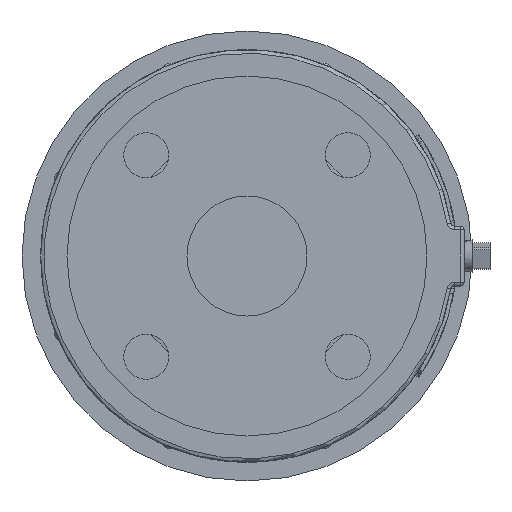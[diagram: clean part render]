
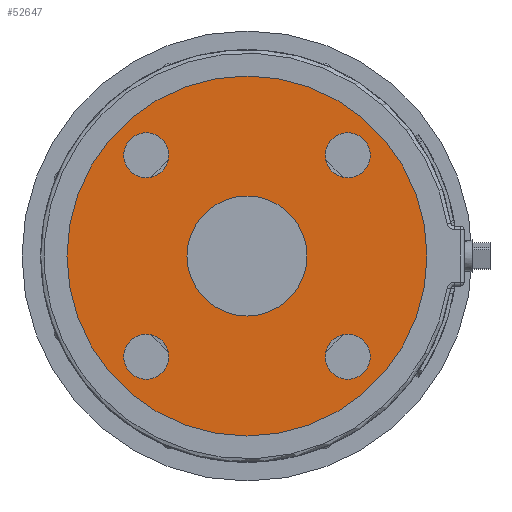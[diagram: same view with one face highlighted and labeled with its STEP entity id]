
A CAD part, front view. The second image highlights one B-rep face of the part: STEP entity #52647.
In plain terms, the highlighted planar face has unit normal (0, -1, 0).
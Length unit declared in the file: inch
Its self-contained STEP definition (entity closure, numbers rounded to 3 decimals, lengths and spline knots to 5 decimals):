
#723 = EDGE_CURVE ( 'NONE', #89953, #5690, #50990, .T. ) ;
#1263 = EDGE_LOOP ( 'NONE', ( #93401, #64311 ) ) ;
#1480 = ORIENTED_EDGE ( 'NONE', *, *, #723, .T. ) ;
#1604 = EDGE_CURVE ( 'NONE', #45033, #6847, #94054, .T. ) ;
#1911 = CARTESIAN_POINT ( 'NONE',  ( 0., -11.44, 0. ) ) ;
#2008 = VERTEX_POINT ( 'NONE', #67988 ) ;
#2479 = EDGE_CURVE ( 'NONE', #97601, #65758, #71176, .T. ) ;
#2820 = AXIS2_PLACEMENT_3D ( 'NONE', #61092, #15231, #68786 ) ;
#5185 = EDGE_CURVE ( 'NONE', #35429, #52187, #64907, .T. ) ;
#5690 = VERTEX_POINT ( 'NONE', #34544 ) ;
#6618 = AXIS2_PLACEMENT_3D ( 'NONE', #99253, #53353, #7550 ) ;
#6627 = DIRECTION ( 'NONE',  ( 0., 0., 1. ) ) ;
#6847 = VERTEX_POINT ( 'NONE', #66919 ) ;
#7532 = DIRECTION ( 'NONE',  ( 0., 1., 0. ) ) ;
#7550 = DIRECTION ( 'NONE',  ( 0., 0., 1. ) ) ;
#7918 = EDGE_LOOP ( 'NONE', ( #43115, #23775 ) ) ;
#8657 = ORIENTED_EDGE ( 'NONE', *, *, #17624, .T. ) ;
#8718 = CARTESIAN_POINT ( 'NONE',  ( -1.67938, -11.44, 2.05438 ) ) ;
#9398 = DIRECTION ( 'NONE',  ( 0., 1., 0. ) ) ;
#9588 = DIRECTION ( 'NONE',  ( 0., 0., -1. ) ) ;
#10799 = FACE_BOUND ( 'NONE', #1263, .T. ) ;
#11014 = AXIS2_PLACEMENT_3D ( 'NONE', #12886, #66424, #20595 ) ;
#12886 = CARTESIAN_POINT ( 'NONE',  ( -1.67938, -11.44, -1.67938 ) ) ;
#14224 = CARTESIAN_POINT ( 'NONE',  ( 1.67938, -11.44, -1.30438 ) ) ;
#14988 = DIRECTION ( 'NONE',  ( 0., -1., 0. ) ) ;
#15026 = EDGE_CURVE ( 'NONE', #37452, #2008, #25461, .T. ) ;
#15231 = DIRECTION ( 'NONE',  ( 0., 1., 0. ) ) ;
#17624 = EDGE_CURVE ( 'NONE', #6847, #45033, #45529, .T. ) ;
#17812 = CARTESIAN_POINT ( 'NONE',  ( 0., -11.44, 0. ) ) ;
#20595 = DIRECTION ( 'NONE',  ( 0., 0., 1. ) ) ;
#20858 = ORIENTED_EDGE ( 'NONE', *, *, #2479, .F. ) ;
#21464 = CARTESIAN_POINT ( 'NONE',  ( 1.67938, -11.44, 2.05438 ) ) ;
#23383 = AXIS2_PLACEMENT_3D ( 'NONE', #78333, #32498, #86001 ) ;
#23775 = ORIENTED_EDGE ( 'NONE', *, *, #56109, .T. ) ;
#25010 = CIRCLE ( 'NONE', #88787, 0.375 ) ;
#25461 = CIRCLE ( 'NONE', #11014, 0.375 ) ;
#25493 = DIRECTION ( 'NONE',  ( 0., 0., -1. ) ) ;
#25897 = ORIENTED_EDGE ( 'NONE', *, *, #63485, .T. ) ;
#28963 = DIRECTION ( 'NONE',  ( 0., 1., 0. ) ) ;
#30079 = CARTESIAN_POINT ( 'NONE',  ( 0., -11.44, 0. ) ) ;
#32135 = CIRCLE ( 'NONE', #23383, 0.375 ) ;
#32498 = DIRECTION ( 'NONE',  ( 0., 1., 0. ) ) ;
#34164 = CARTESIAN_POINT ( 'NONE',  ( 1.67938, -11.44, -1.67938 ) ) ;
#34428 = EDGE_LOOP ( 'NONE', ( #42294, #81328 ) ) ;
#34544 = CARTESIAN_POINT ( 'NONE',  ( 1.67938, -11.44, -2.05438 ) ) ;
#35429 = VERTEX_POINT ( 'NONE', #72295 ) ;
#37345 = AXIS2_PLACEMENT_3D ( 'NONE', #84320, #38464, #92008 ) ;
#37452 = VERTEX_POINT ( 'NONE', #82972 ) ;
#37971 = CIRCLE ( 'NONE', #50394, 1. ) ;
#38464 = DIRECTION ( 'NONE',  ( 0., 1., 0. ) ) ;
#38889 = EDGE_LOOP ( 'NONE', ( #62205, #20858 ) ) ;
#40253 = AXIS2_PLACEMENT_3D ( 'NONE', #74824, #28963, #82517 ) ;
#41835 = DIRECTION ( 'NONE',  ( 0., 0., 1. ) ) ;
#42294 = ORIENTED_EDGE ( 'NONE', *, *, #54840, .T. ) ;
#43115 = ORIENTED_EDGE ( 'NONE', *, *, #5185, .T. ) ;
#43648 = CIRCLE ( 'NONE', #40253, 0.375 ) ;
#43914 = CARTESIAN_POINT ( 'NONE',  ( 0., -11.44, 3. ) ) ;
#43987 = AXIS2_PLACEMENT_3D ( 'NONE', #1911, #55419, #9588 ) ;
#45033 = VERTEX_POINT ( 'NONE', #21464 ) ;
#45529 = CIRCLE ( 'NONE', #6618, 0.375 ) ;
#47450 = AXIS2_PLACEMENT_3D ( 'NONE', #34164, #87675, #41835 ) ;
#48198 = VERTEX_POINT ( 'NONE', #8718 ) ;
#49125 = FACE_BOUND ( 'NONE', #7918, .T. ) ;
#50394 = AXIS2_PLACEMENT_3D ( 'NONE', #17812, #71368, #25493 ) ;
#50990 = CIRCLE ( 'NONE', #37345, 0.375 ) ;
#51502 = FACE_BOUND ( 'NONE', #34428, .T. ) ;
#52187 = VERTEX_POINT ( 'NONE', #61304 ) ;
#52440 = DIRECTION ( 'NONE',  ( 0., 1., 0. ) ) ;
#52647 = ADVANCED_FACE ( 'NONE', ( #51502, #10799, #92228, #89786, #69461, #49125 ), #60852, .T. ) ;
#53338 = CARTESIAN_POINT ( 'NONE',  ( 0., -11.44, 0. ) ) ;
#53353 = DIRECTION ( 'NONE',  ( 0., 1., 0. ) ) ;
#54047 = EDGE_LOOP ( 'NONE', ( #8657, #89267 ) ) ;
#54057 = EDGE_CURVE ( 'NONE', #48198, #95596, #25010, .T. ) ;
#54840 = EDGE_CURVE ( 'NONE', #95596, #48198, #32135, .T. ) ;
#55214 = CARTESIAN_POINT ( 'NONE',  ( 0., -11.44, 0. ) ) ;
#55419 = DIRECTION ( 'NONE',  ( 0., 1., 0. ) ) ;
#56109 = EDGE_CURVE ( 'NONE', #52187, #35429, #37971, .T. ) ;
#58382 = EDGE_CURVE ( 'NONE', #65758, #97601, #89249, .T. ) ;
#58900 = CIRCLE ( 'NONE', #47450, 0.375 ) ;
#60057 = EDGE_CURVE ( 'NONE', #2008, #37452, #43648, .T. ) ;
#60852 = PLANE ( 'NONE',  #67056 ) ;
#61033 = DIRECTION ( 'NONE',  ( 0., 0., 1. ) ) ;
#61092 = CARTESIAN_POINT ( 'NONE',  ( 1.67938, -11.44, 1.67938 ) ) ;
#61304 = CARTESIAN_POINT ( 'NONE',  ( 0., -11.44, -1. ) ) ;
#62205 = ORIENTED_EDGE ( 'NONE', *, *, #58382, .F. ) ;
#62911 = DIRECTION ( 'NONE',  ( 0., 0., 1. ) ) ;
#63485 = EDGE_CURVE ( 'NONE', #5690, #89953, #58900, .T. ) ;
#64311 = ORIENTED_EDGE ( 'NONE', *, *, #60057, .T. ) ;
#64526 = CARTESIAN_POINT ( 'NONE',  ( 0., -11.44, -3. ) ) ;
#64907 = CIRCLE ( 'NONE', #43987, 1. ) ;
#65758 = VERTEX_POINT ( 'NONE', #43914 ) ;
#66424 = DIRECTION ( 'NONE',  ( 0., 1., 0. ) ) ;
#66919 = CARTESIAN_POINT ( 'NONE',  ( 1.67938, -11.44, 1.30438 ) ) ;
#67056 = AXIS2_PLACEMENT_3D ( 'NONE', #30079, #14988, #68534 ) ;
#67988 = CARTESIAN_POINT ( 'NONE',  ( -1.67938, -11.44, -1.30438 ) ) ;
#68534 = DIRECTION ( 'NONE',  ( 0., 0., -1. ) ) ;
#68786 = DIRECTION ( 'NONE',  ( 0., 0., 1. ) ) ;
#68913 = AXIS2_PLACEMENT_3D ( 'NONE', #55214, #9398, #62911 ) ;
#69461 = FACE_OUTER_BOUND ( 'NONE', #38889, .T. ) ;
#69886 = EDGE_LOOP ( 'NONE', ( #25897, #1480 ) ) ;
#71176 = CIRCLE ( 'NONE', #68913, 3. ) ;
#71368 = DIRECTION ( 'NONE',  ( 0., 1., 0. ) ) ;
#72295 = CARTESIAN_POINT ( 'NONE',  ( 0., -11.44, 1. ) ) ;
#73565 = AXIS2_PLACEMENT_3D ( 'NONE', #53338, #7532, #61033 ) ;
#74824 = CARTESIAN_POINT ( 'NONE',  ( -1.67938, -11.44, -1.67938 ) ) ;
#76402 = CARTESIAN_POINT ( 'NONE',  ( -1.67938, -11.44, 1.30438 ) ) ;
#78333 = CARTESIAN_POINT ( 'NONE',  ( -1.67938, -11.44, 1.67938 ) ) ;
#81328 = ORIENTED_EDGE ( 'NONE', *, *, #54057, .T. ) ;
#82517 = DIRECTION ( 'NONE',  ( 0., 0., 1. ) ) ;
#82972 = CARTESIAN_POINT ( 'NONE',  ( -1.67938, -11.44, -2.05438 ) ) ;
#84320 = CARTESIAN_POINT ( 'NONE',  ( 1.67938, -11.44, -1.67938 ) ) ;
#86001 = DIRECTION ( 'NONE',  ( 0., 0., 1. ) ) ;
#87675 = DIRECTION ( 'NONE',  ( 0., 1., 0. ) ) ;
#88787 = AXIS2_PLACEMENT_3D ( 'NONE', #98350, #52440, #6627 ) ;
#89249 = CIRCLE ( 'NONE', #73565, 3. ) ;
#89267 = ORIENTED_EDGE ( 'NONE', *, *, #1604, .T. ) ;
#89786 = FACE_BOUND ( 'NONE', #54047, .T. ) ;
#89953 = VERTEX_POINT ( 'NONE', #14224 ) ;
#92008 = DIRECTION ( 'NONE',  ( 0., 0., 1. ) ) ;
#92228 = FACE_BOUND ( 'NONE', #69886, .T. ) ;
#93401 = ORIENTED_EDGE ( 'NONE', *, *, #15026, .T. ) ;
#94054 = CIRCLE ( 'NONE', #2820, 0.375 ) ;
#95596 = VERTEX_POINT ( 'NONE', #76402 ) ;
#97601 = VERTEX_POINT ( 'NONE', #64526 ) ;
#98350 = CARTESIAN_POINT ( 'NONE',  ( -1.67938, -11.44, 1.67938 ) ) ;
#99253 = CARTESIAN_POINT ( 'NONE',  ( 1.67938, -11.44, 1.67938 ) ) ;
